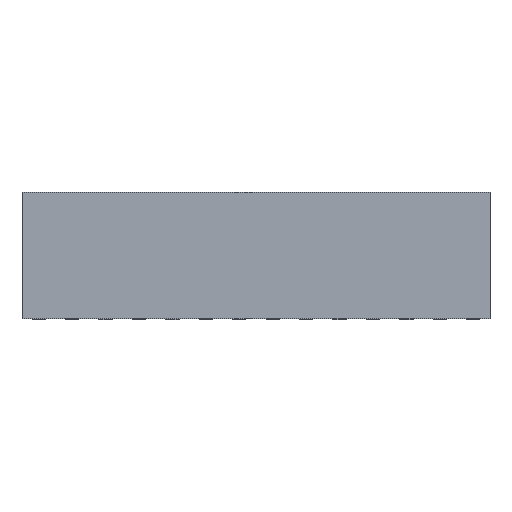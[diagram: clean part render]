
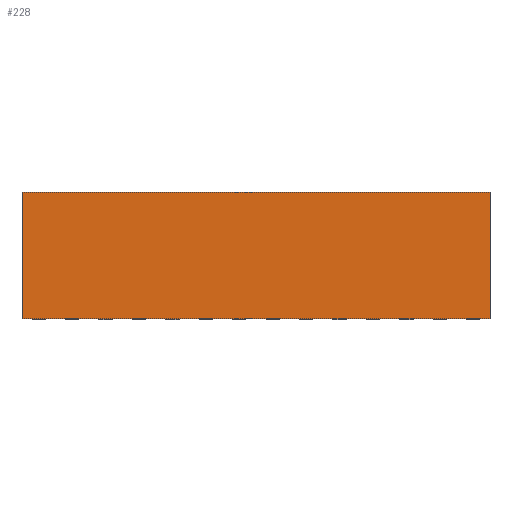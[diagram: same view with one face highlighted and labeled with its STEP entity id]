
A CAD part, front view. The second image highlights one B-rep face of the part: STEP entity #228.
In plain terms, the highlighted planar face has unit normal (0, -1, 0).
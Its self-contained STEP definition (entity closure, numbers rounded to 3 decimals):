
#59 = PLANE('',#60);
#60 = AXIS2_PLACEMENT_3D('',#61,#62,#63);
#61 = CARTESIAN_POINT('',(-17.78,-1.25,0.));
#62 = DIRECTION('',(-1.,0.,0.));
#63 = DIRECTION('',(0.,1.,0.));
#87 = PLANE('',#88);
#88 = AXIS2_PLACEMENT_3D('',#89,#90,#91);
#89 = CARTESIAN_POINT('',(0.,0.,9.6));
#90 = DIRECTION('',(-0.,-0.,-1.));
#91 = DIRECTION('',(-1.,0.,0.));
#115 = PLANE('',#116);
#116 = AXIS2_PLACEMENT_3D('',#117,#118,#119);
#117 = CARTESIAN_POINT('',(17.78,1.25,0.));
#118 = DIRECTION('',(1.,0.,-0.));
#119 = DIRECTION('',(0.,-1.,0.));
#141 = PLANE('',#142);
#142 = AXIS2_PLACEMENT_3D('',#143,#144,#145);
#143 = CARTESIAN_POINT('',(0.,0.,0.));
#144 = DIRECTION('',(-0.,-0.,-1.));
#145 = DIRECTION('',(-1.,0.,0.));
#158 = VERTEX_POINT('',#159);
#159 = CARTESIAN_POINT('',(17.78,-1.25,9.6));
#180 = EDGE_CURVE('',#181,#158,#183,.T.);
#181 = VERTEX_POINT('',#182);
#182 = CARTESIAN_POINT('',(17.78,-1.25,0.));
#183 = SURFACE_CURVE('',#184,(#188,#195),.PCURVE_S1.);
#184 = LINE('',#185,#186);
#185 = CARTESIAN_POINT('',(17.78,-1.25,0.));
#186 = VECTOR('',#187,1.);
#187 = DIRECTION('',(0.,0.,1.));
#188 = PCURVE('',#115,#189);
#189 = DEFINITIONAL_REPRESENTATION('',(#190),#194);
#190 = LINE('',#191,#192);
#191 = CARTESIAN_POINT('',(2.5,0.));
#192 = VECTOR('',#193,1.);
#193 = DIRECTION('',(0.,-1.));
#194 = ( GEOMETRIC_REPRESENTATION_CONTEXT(2) 
PARAMETRIC_REPRESENTATION_CONTEXT() REPRESENTATION_CONTEXT('2D SPACE',''
  ) );
#195 = PCURVE('',#196,#201);
#196 = PLANE('',#197);
#197 = AXIS2_PLACEMENT_3D('',#198,#199,#200);
#198 = CARTESIAN_POINT('',(17.78,-1.25,0.));
#199 = DIRECTION('',(0.,-1.,0.));
#200 = DIRECTION('',(-1.,0.,0.));
#201 = DEFINITIONAL_REPRESENTATION('',(#202),#206);
#202 = LINE('',#203,#204);
#203 = CARTESIAN_POINT('',(0.,-0.));
#204 = VECTOR('',#205,1.);
#205 = DIRECTION('',(0.,-1.));
#206 = ( GEOMETRIC_REPRESENTATION_CONTEXT(2) 
PARAMETRIC_REPRESENTATION_CONTEXT() REPRESENTATION_CONTEXT('2D SPACE',''
  ) );
#228 = ADVANCED_FACE('',(#229),#196,.T.);
#229 = FACE_BOUND('',#230,.T.);
#230 = EDGE_LOOP('',(#231,#232,#255,#278));
#231 = ORIENTED_EDGE('',*,*,#180,.T.);
#232 = ORIENTED_EDGE('',*,*,#233,.T.);
#233 = EDGE_CURVE('',#158,#234,#236,.T.);
#234 = VERTEX_POINT('',#235);
#235 = CARTESIAN_POINT('',(-17.78,-1.25,9.6));
#236 = SURFACE_CURVE('',#237,(#241,#248),.PCURVE_S1.);
#237 = LINE('',#238,#239);
#238 = CARTESIAN_POINT('',(17.78,-1.25,9.6));
#239 = VECTOR('',#240,1.);
#240 = DIRECTION('',(-1.,0.,0.));
#241 = PCURVE('',#196,#242);
#242 = DEFINITIONAL_REPRESENTATION('',(#243),#247);
#243 = LINE('',#244,#245);
#244 = CARTESIAN_POINT('',(0.,-9.6));
#245 = VECTOR('',#246,1.);
#246 = DIRECTION('',(1.,0.));
#247 = ( GEOMETRIC_REPRESENTATION_CONTEXT(2) 
PARAMETRIC_REPRESENTATION_CONTEXT() REPRESENTATION_CONTEXT('2D SPACE',''
  ) );
#248 = PCURVE('',#87,#249);
#249 = DEFINITIONAL_REPRESENTATION('',(#250),#254);
#250 = LINE('',#251,#252);
#251 = CARTESIAN_POINT('',(-17.78,-1.25));
#252 = VECTOR('',#253,1.);
#253 = DIRECTION('',(1.,0.));
#254 = ( GEOMETRIC_REPRESENTATION_CONTEXT(2) 
PARAMETRIC_REPRESENTATION_CONTEXT() REPRESENTATION_CONTEXT('2D SPACE',''
  ) );
#255 = ORIENTED_EDGE('',*,*,#256,.F.);
#256 = EDGE_CURVE('',#257,#234,#259,.T.);
#257 = VERTEX_POINT('',#258);
#258 = CARTESIAN_POINT('',(-17.78,-1.25,0.));
#259 = SURFACE_CURVE('',#260,(#264,#271),.PCURVE_S1.);
#260 = LINE('',#261,#262);
#261 = CARTESIAN_POINT('',(-17.78,-1.25,0.));
#262 = VECTOR('',#263,1.);
#263 = DIRECTION('',(0.,0.,1.));
#264 = PCURVE('',#196,#265);
#265 = DEFINITIONAL_REPRESENTATION('',(#266),#270);
#266 = LINE('',#267,#268);
#267 = CARTESIAN_POINT('',(35.56,0.));
#268 = VECTOR('',#269,1.);
#269 = DIRECTION('',(0.,-1.));
#270 = ( GEOMETRIC_REPRESENTATION_CONTEXT(2) 
PARAMETRIC_REPRESENTATION_CONTEXT() REPRESENTATION_CONTEXT('2D SPACE',''
  ) );
#271 = PCURVE('',#59,#272);
#272 = DEFINITIONAL_REPRESENTATION('',(#273),#277);
#273 = LINE('',#274,#275);
#274 = CARTESIAN_POINT('',(0.,0.));
#275 = VECTOR('',#276,1.);
#276 = DIRECTION('',(0.,-1.));
#277 = ( GEOMETRIC_REPRESENTATION_CONTEXT(2) 
PARAMETRIC_REPRESENTATION_CONTEXT() REPRESENTATION_CONTEXT('2D SPACE',''
  ) );
#278 = ORIENTED_EDGE('',*,*,#279,.F.);
#279 = EDGE_CURVE('',#181,#257,#280,.T.);
#280 = SURFACE_CURVE('',#281,(#285,#292),.PCURVE_S1.);
#281 = LINE('',#282,#283);
#282 = CARTESIAN_POINT('',(17.78,-1.25,0.));
#283 = VECTOR('',#284,1.);
#284 = DIRECTION('',(-1.,0.,0.));
#285 = PCURVE('',#196,#286);
#286 = DEFINITIONAL_REPRESENTATION('',(#287),#291);
#287 = LINE('',#288,#289);
#288 = CARTESIAN_POINT('',(0.,-0.));
#289 = VECTOR('',#290,1.);
#290 = DIRECTION('',(1.,0.));
#291 = ( GEOMETRIC_REPRESENTATION_CONTEXT(2) 
PARAMETRIC_REPRESENTATION_CONTEXT() REPRESENTATION_CONTEXT('2D SPACE',''
  ) );
#292 = PCURVE('',#141,#293);
#293 = DEFINITIONAL_REPRESENTATION('',(#294),#298);
#294 = LINE('',#295,#296);
#295 = CARTESIAN_POINT('',(-17.78,-1.25));
#296 = VECTOR('',#297,1.);
#297 = DIRECTION('',(1.,0.));
#298 = ( GEOMETRIC_REPRESENTATION_CONTEXT(2) 
PARAMETRIC_REPRESENTATION_CONTEXT() REPRESENTATION_CONTEXT('2D SPACE',''
  ) );
